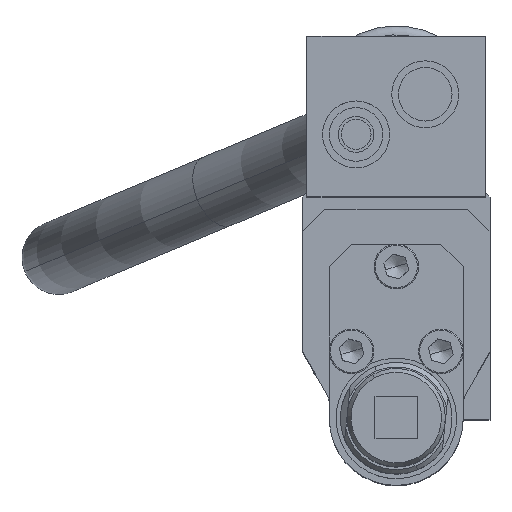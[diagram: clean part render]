
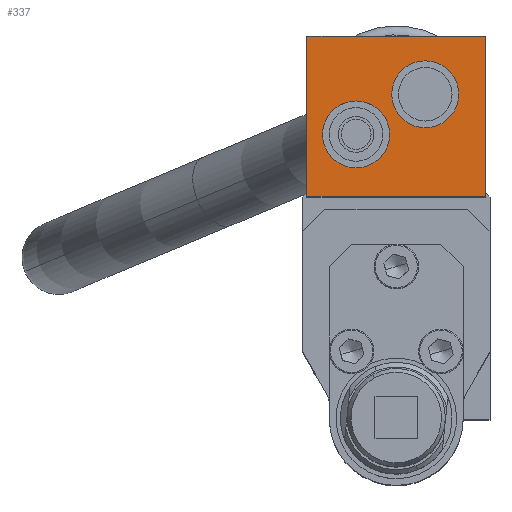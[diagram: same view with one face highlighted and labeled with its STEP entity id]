
A CAD part, top view. The second image highlights one B-rep face of the part: STEP entity #337.
In plain terms, the highlighted planar face has unit normal (0, 0, 1).
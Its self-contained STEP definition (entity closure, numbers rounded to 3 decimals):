
#215=CARTESIAN_POINT('Vertex',(-20.,65.25,84.)) ;
#236=CARTESIAN_POINT('Vertex',(-20.,29.25,84.)) ;
#239=CARTESIAN_POINT('Line Origine',(-20.,47.25,84.)) ;
#299=CARTESIAN_POINT('Vertex',(20.,29.25,84.)) ;
#302=CARTESIAN_POINT('Line Origine',(0.,29.25,84.)) ;
#314=CARTESIAN_POINT('Axis2P3D Location',(0.,0.,84.)) ;
#319=CARTESIAN_POINT('Line Origine',(20.,47.25,84.)) ;
#323=CARTESIAN_POINT('Vertex',(20.,65.25,84.)) ;
#326=CARTESIAN_POINT('Line Origine',(0.,65.25,84.)) ;
#240=DIRECTION('Vector Direction',(0.,-1.,0.)) ;
#303=DIRECTION('Vector Direction',(-1.,0.,0.)) ;
#315=DIRECTION('Axis2P3D Direction',(0.,0.,1.)) ;
#316=DIRECTION('Axis2P3D XDirection',(1.,0.,0.)) ;
#320=DIRECTION('Vector Direction',(0.,1.,0.)) ;
#327=DIRECTION('Vector Direction',(1.,0.,0.)) ;
#317=AXIS2_PLACEMENT_3D('Plane Axis2P3D',#314,#315,#316) ;
#332=ORIENTED_EDGE('',*,*,#243,.T.) ;
#333=ORIENTED_EDGE('',*,*,#306,.T.) ;
#334=ORIENTED_EDGE('',*,*,#325,.T.) ;
#335=ORIENTED_EDGE('',*,*,#330,.T.) ;
#241=VECTOR('Line Direction',#240,1.) ;
#304=VECTOR('Line Direction',#303,1.) ;
#321=VECTOR('Line Direction',#320,1.) ;
#328=VECTOR('Line Direction',#327,1.) ;
#337=ADVANCED_FACE('',(#336),#318,.T.) ;
#243=EDGE_CURVE('',#216,#237,#242,.T.) ;
#306=EDGE_CURVE('',#237,#300,#305,.F.) ;
#325=EDGE_CURVE('',#300,#324,#322,.T.) ;
#330=EDGE_CURVE('',#324,#216,#329,.F.) ;
#331=EDGE_LOOP('',(#332,#333,#334,#335)) ;
#336=FACE_OUTER_BOUND('',#331,.T.) ;
#242=LINE('Line',#239,#241) ;
#305=LINE('Line',#302,#304) ;
#322=LINE('Line',#319,#321) ;
#329=LINE('Line',#326,#328) ;
#318=PLANE('Plane',#317) ;
#216=VERTEX_POINT('',#215) ;
#237=VERTEX_POINT('',#236) ;
#300=VERTEX_POINT('',#299) ;
#324=VERTEX_POINT('',#323) ;
